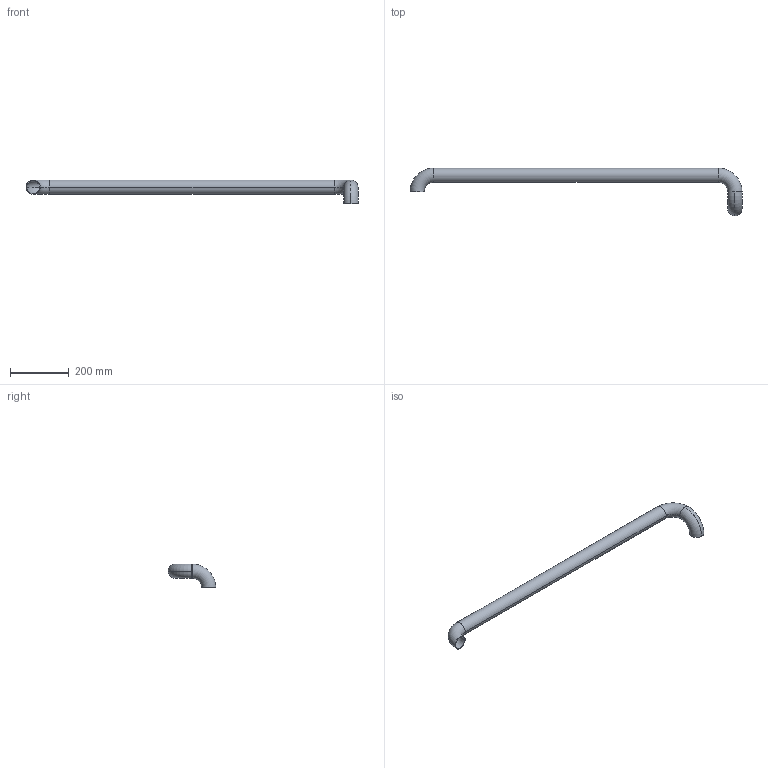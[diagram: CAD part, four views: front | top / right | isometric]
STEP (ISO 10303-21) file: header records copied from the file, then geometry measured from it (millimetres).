
FILE_DESCRIPTION (( 'STEP AP214' ), '1' );
FILE_NAME ('CCJ029-REP.355 - MAIN COURANTE EXCROISSANCE FILE A''.STEP', '2025-11-04T10:52:11', ( '' ), ( '' ), 'SwSTEP 2.0', 'SolidWorks 2021', '' );
FILE_SCHEMA (( 'AUTOMOTIVE_DESIGN' ));
Length unit declared in the file: millimetre
Products named in the file (1): CCJ029-REP.355 - MAIN COURANTE EXCROISSANCE FILE A''
Bounding box: 1127.3 x 162.3 x 81.15 mm (x, y, z)
Volume: 443743.4 mm3; surface area: 355714.1 mm2
Topology: 1 solids, 1 shells, 18 faces, 40 edges, 24 vertices
Faces by surface type: torus 12, cylinder 4, plane 2
Entity records: 554 total; most frequent: DIRECTION 114, CARTESIAN_POINT 83, ORIENTED_EDGE 80, AXIS2_PLACEMENT_3D 55, EDGE_CURVE 40, CIRCLE 36, VERTEX_POINT 24, EDGE_LOOP 20
